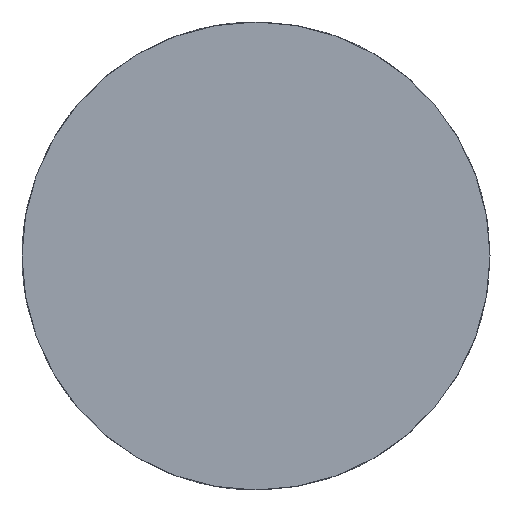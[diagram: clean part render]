
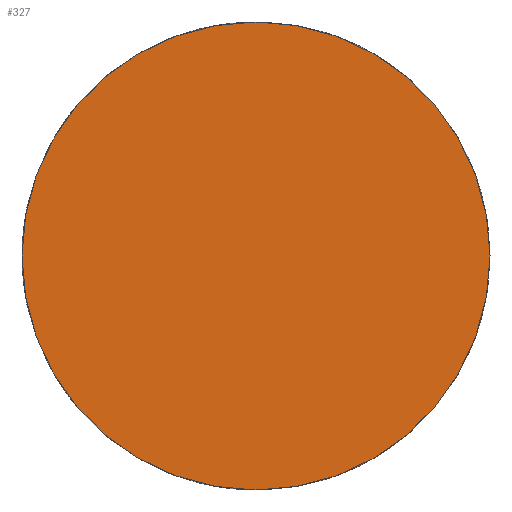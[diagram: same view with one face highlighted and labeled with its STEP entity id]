
A CAD part, left-side view. The second image highlights one B-rep face of the part: STEP entity #327.
In plain terms, the highlighted planar face has unit normal (-1, 0, 0).
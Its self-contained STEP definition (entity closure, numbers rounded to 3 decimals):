
#327 = ADVANCED_FACE( '', ( #680 ), #681, .F. );
#680 = FACE_OUTER_BOUND( '', #1057, .T. );
#681 = PLANE( '', #1058 );
#1057 = EDGE_LOOP( '', ( #1926 ) );
#1058 = AXIS2_PLACEMENT_3D( '', #1927, #1928, #1929 );
#1926 = ORIENTED_EDGE( '', *, *, #2764, .F. );
#1927 = CARTESIAN_POINT( '', ( 0., 0., 0. ) );
#1928 = DIRECTION( '', ( 1., 0., 0. ) );
#1929 = DIRECTION( '', ( 0., 1., 0. ) );
#2764 = EDGE_CURVE( '', #3477, #3477, #3478, .T. );
#3477 = VERTEX_POINT( '', #4390 );
#3478 = CIRCLE( '', #4391, 6.78 );
#4390 = CARTESIAN_POINT( '', ( 0., 6.78, 0. ) );
#4391 = AXIS2_PLACEMENT_3D( '', #5045, #5046, #5047 );
#5045 = CARTESIAN_POINT( '', ( 0., 0., 0. ) );
#5046 = DIRECTION( '', ( 1., 0., 0. ) );
#5047 = DIRECTION( '', ( 0., 1., 0. ) );
